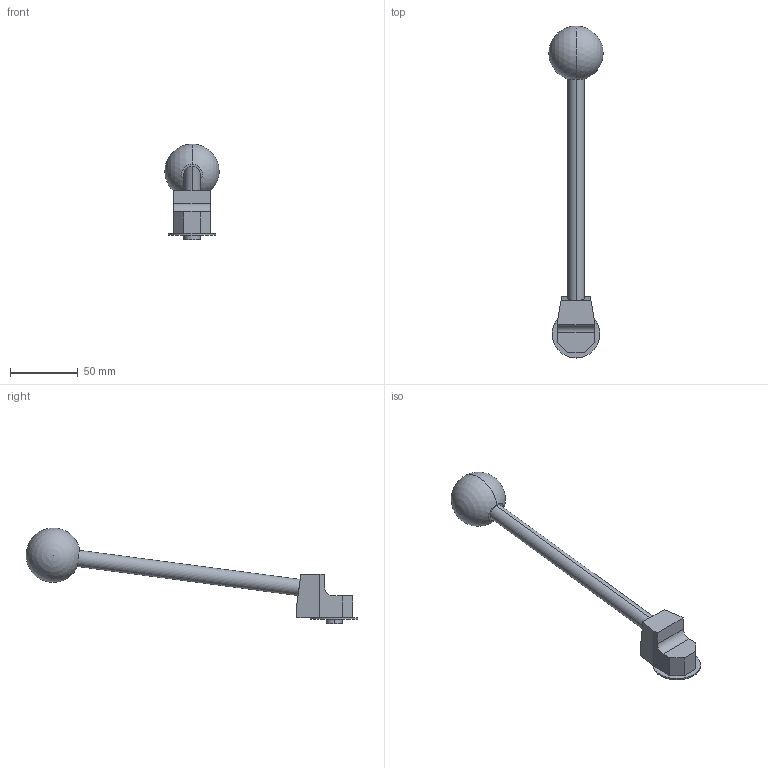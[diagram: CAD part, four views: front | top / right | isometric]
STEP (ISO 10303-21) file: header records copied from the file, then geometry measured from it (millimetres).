
FILE_DESCRIPTION (( 'STEP AP214' ), '1' );
FILE_NAME ('09107_63_C.STEP', '2020-01-23T08:09:42', ( '' ), ( '' ), 'SwSTEP 2.0', 'SolidWorks 2019', '' );
FILE_SCHEMA (( 'AUTOMOTIVE_DESIGN' ));
Length unit declared in the file: millimetre
Products named in the file (1): 09107_63_C
Bounding box: 40 x 244.47 x 70.6 mm (x, y, z)
Volume: 77012.5 mm3; surface area: 16924.7 mm2
Topology: 1 solids, 1 shells, 26 faces, 67 edges, 44 vertices
Faces by surface type: plane 17, cylinder 7, sphere 2
Entity records: 792 total; most frequent: DIRECTION 136, CARTESIAN_POINT 130, ORIENTED_EDGE 124, EDGE_CURVE 62, AXIS2_PLACEMENT_3D 47, VECTOR 42, LINE 42, VERTEX_POINT 41
